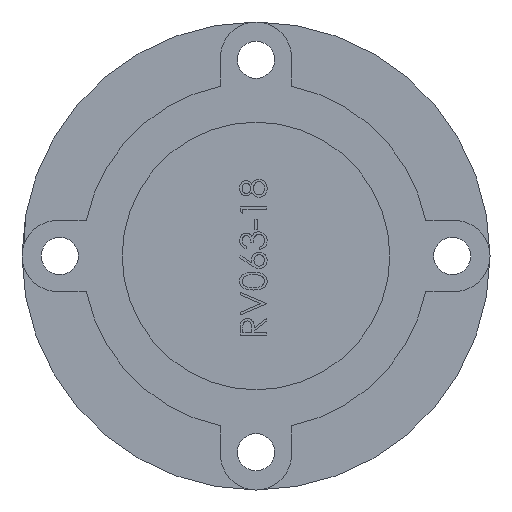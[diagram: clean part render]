
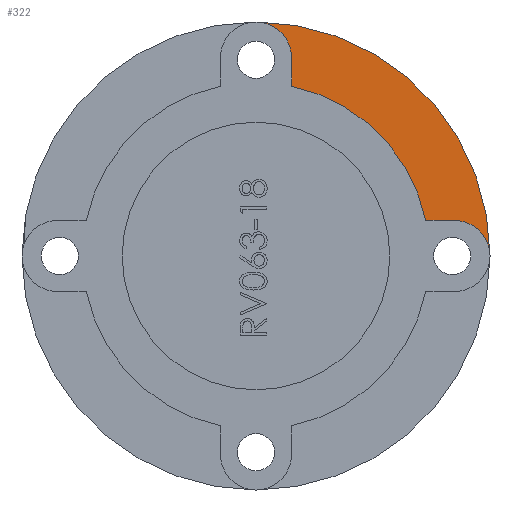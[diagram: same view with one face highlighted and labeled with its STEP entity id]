
A CAD part, left-side view. The second image highlights one B-rep face of the part: STEP entity #322.
In plain terms, the highlighted planar face has unit normal (-1, 0, 0).
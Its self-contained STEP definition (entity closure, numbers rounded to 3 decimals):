
#322 = ADVANCED_FACE ( 'NONE', ( #2599 ), #3353, .F. ) ;
#853 = ORIENTED_EDGE ( 'NONE', *, *, #6703, .F. ) ;
#854 = ORIENTED_EDGE ( 'NONE', *, *, #6704, .F. ) ;
#855 = ORIENTED_EDGE ( 'NONE', *, *, #6702, .F. ) ;
#856 = ORIENTED_EDGE ( 'NONE', *, *, #6705, .F. ) ;
#857 = ORIENTED_EDGE ( 'NONE', *, *, #6706, .T. ) ;
#858 = ORIENTED_EDGE ( 'NONE', *, *, #6707, .F. ) ;
#1244 = DIRECTION ( 'NONE',  ( 0., -1., 0. ) ) ;
#1245 = DIRECTION ( 'NONE',  ( -1., 0., 0. ) ) ;
#1246 = CARTESIAN_POINT ( 'NONE',  ( 15., 0., 48.05 ) ) ;
#1247 = DIRECTION ( 'NONE',  ( 0., 0., 1. ) ) ;
#1248 = DIRECTION ( 'NONE',  ( -1., 0., 0. ) ) ;
#1249 = CARTESIAN_POINT ( 'NONE',  ( 15., 0., 0. ) ) ;
#1250 = DIRECTION ( 'NONE',  ( 0., 0., -1. ) ) ;
#1251 = DIRECTION ( 'NONE',  ( -1., 0., 0. ) ) ;
#1252 = DIRECTION ( 'NONE',  ( 0., 1., 0. ) ) ;
#1253 = CARTESIAN_POINT ( 'NONE',  ( 15., -48.05, 8.6 ) ) ;
#1254 = LINE ( 'NONE', #1253, #5148 ) ;
#1255 = DIRECTION ( 'NONE',  ( 0., 0., 1. ) ) ;
#1256 = CARTESIAN_POINT ( 'NONE',  ( 15., -8.6, 48.05 ) ) ;
#1257 = LINE ( 'NONE', #1256, #5146 ) ;
#1258 = CARTESIAN_POINT ( 'NONE',  ( 15., -48.05, 0. ) ) ;
#1259 = DIRECTION ( 'NONE',  ( 0., 0., 1. ) ) ;
#1260 = DIRECTION ( 'NONE',  ( -1., 0., 0. ) ) ;
#1261 = CARTESIAN_POINT ( 'NONE',  ( 15., 0., 0. ) ) ;
#1615 = EDGE_LOOP ( 'NONE', ( #853, #855, #854, #856, #857, #858 ) ) ;
#1804 = VERTEX_POINT ( 'NONE', #4831 ) ;
#1805 = VERTEX_POINT ( 'NONE', #4830 ) ;
#1806 = VERTEX_POINT ( 'NONE', #4829 ) ;
#1807 = VERTEX_POINT ( 'NONE', #4828 ) ;
#1808 = VERTEX_POINT ( 'NONE', #4827 ) ;
#1982 = VERTEX_POINT ( 'NONE', #4653 ) ;
#2597 = AXIS2_PLACEMENT_3D ( 'NONE', #3352, #3351, #3350 ) ;
#2599 = FACE_OUTER_BOUND ( 'NONE', #1615, .T. ) ;
#3350 = DIRECTION ( 'NONE',  ( 0., 0., -1. ) ) ;
#3351 = DIRECTION ( 'NONE',  ( 1., 0., 0. ) ) ;
#3352 = CARTESIAN_POINT ( 'NONE',  ( 15., 42., 0. ) ) ;
#3353 = PLANE ( 'NONE',  #2597 ) ;
#4653 = CARTESIAN_POINT ( 'NONE',  ( 15., 0., 56.65 ) ) ;
#4827 = CARTESIAN_POINT ( 'NONE',  ( 15., -56.65, 0. ) ) ;
#4828 = CARTESIAN_POINT ( 'NONE',  ( 15., -48.05, 8.6 ) ) ;
#4829 = CARTESIAN_POINT ( 'NONE',  ( 15., -41.11, 8.6 ) ) ;
#4830 = CARTESIAN_POINT ( 'NONE',  ( 15., -8.6, 48.05 ) ) ;
#4831 = CARTESIAN_POINT ( 'NONE',  ( 15., -8.6, 41.11 ) ) ;
#5142 = AXIS2_PLACEMENT_3D ( 'NONE', #1261, #1260, #1259 ) ;
#5144 = AXIS2_PLACEMENT_3D ( 'NONE', #1249, #1248, #1247 ) ;
#5145 = AXIS2_PLACEMENT_3D ( 'NONE', #1258, #1251, #1250 ) ;
#5146 = VECTOR ( 'NONE', #1255, 1000. ) ;
#5148 = VECTOR ( 'NONE', #1252, 1000. ) ;
#5150 = AXIS2_PLACEMENT_3D ( 'NONE', #1246, #1245, #1244 ) ;
#6364 = CIRCLE ( 'NONE', #5150, 8.6 ) ;
#6365 = CIRCLE ( 'NONE', #5144, 56.65 ) ;
#6366 = CIRCLE ( 'NONE', #5145, 8.6 ) ;
#6368 = CIRCLE ( 'NONE', #5142, 42. ) ;
#6702 = EDGE_CURVE ( 'NONE', #1806, #1804, #6368, .T. ) ;
#6703 = EDGE_CURVE ( 'NONE', #1804, #1805, #1257, .T. ) ;
#6704 = EDGE_CURVE ( 'NONE', #1807, #1806, #1254, .T. ) ;
#6705 = EDGE_CURVE ( 'NONE', #1808, #1807, #6366, .T. ) ;
#6706 = EDGE_CURVE ( 'NONE', #1808, #1982, #6365, .T. ) ;
#6707 = EDGE_CURVE ( 'NONE', #1805, #1982, #6364, .T. ) ;
